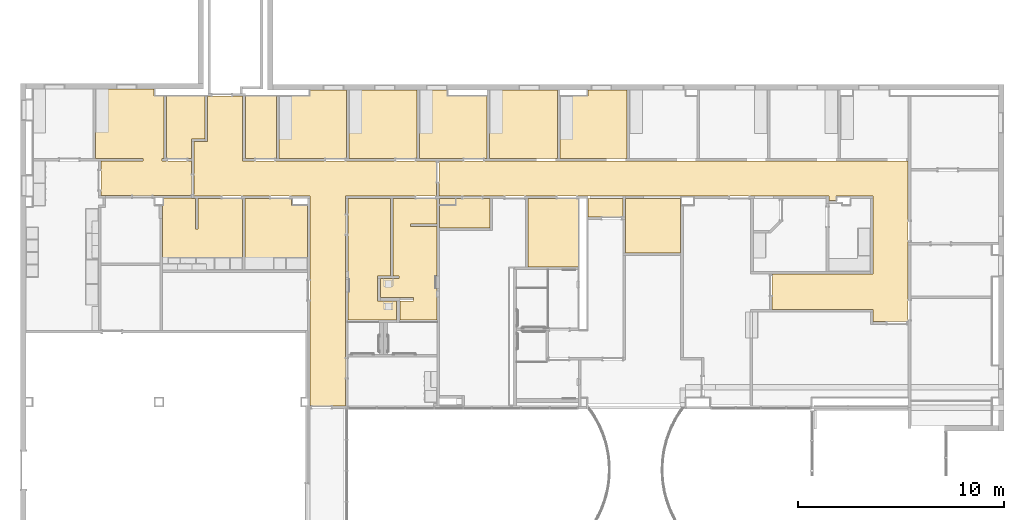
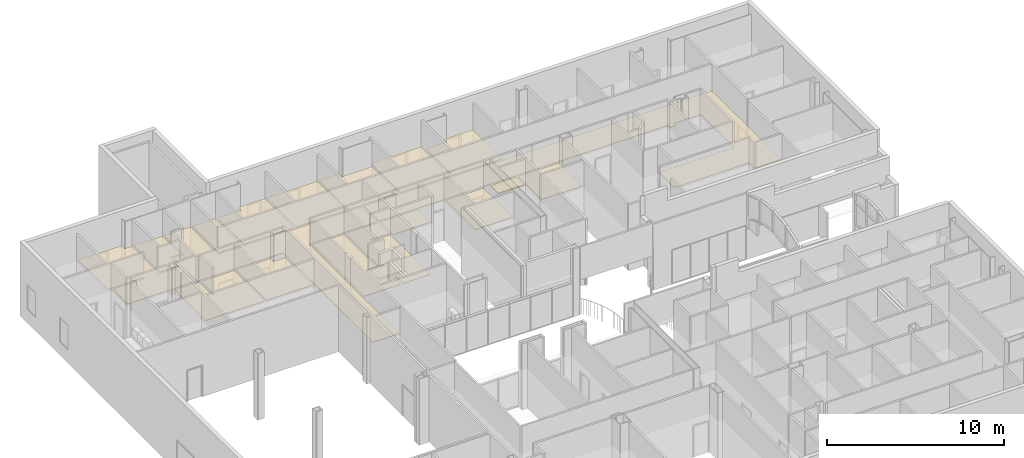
# One storey, part 30 of 47: 18 coverings.
"""IFC2X3 building model written with IfcOpenShell, lengths in metres."""

from ifc_helpers import new_model, entity, si_unit, converted_unit, frame, origin, place, context, project, spatial, face_set, surface_model, material, layer, layer_set, layer_usage, element, save


model = new_model("IFC2X3")

# Units and contexts
model_context = context("Model", 3, precision=1e-09, world=origin())
plan_context = context("Plan", 3, precision=1e-09, world=origin())
ifc_project = project(units=[si_unit("LENGTHUNIT", "METRE"), si_unit("AREAUNIT", "SQUARE_METRE"), si_unit("VOLUMEUNIT", "CUBIC_METRE"), converted_unit("PLANEANGLEUNIT", "DEGREE", entity("IfcRatioMeasure", 0.01745329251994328), si_unit("PLANEANGLEUNIT", "RADIAN"), dimensions=[0, 0, 0, 0, 0, 0, 0]), si_unit("TIMEUNIT", "SECOND")], contexts=[model_context, plan_context])

# Site, building, storey
site_placement = place(None, origin())
site = spatial("IfcSite", under=ifc_project, at=site_placement, Name="Default", CompositionType="ELEMENT")
building_placement = place(site_placement, origin())
building = spatial("IfcBuilding", under=site, at=building_placement, CompositionType="ELEMENT")
storey_placement = place(building_placement, frame((0.0, 0.0, 4.570000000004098)))
storey = spatial("IfcBuildingStorey", under=building, at=storey_placement, Name="Second Floor", CompositionType="ELEMENT", Elevation=4.570000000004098)

# Coverings
ifc_material_1 = material(Name="Default")
ifc_layer_1 = layer(ifc_material_1, 0.03599999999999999)
ifc_material_2 = material(Name="Ceiling Tile 600 x 600")
ifc_layer_2 = layer(ifc_material_2, 0.016)
ifc_layer_set = layer_set([ifc_layer_1, ifc_layer_2], Name="Compound Ceiling:ACT 600 x 600mm Grid")
ifc_layer_usage_1 = layer_usage(ifc_layer_set, "AXIS3", "NEGATIVE", 0.0)
covering_1_placement = place(storey_placement, origin())
element("IfcCovering", 1, at=covering_1_placement, inside=storey, material=ifc_layer_usage_1, Name="Compound Ceiling:ACT 600 x 600mm Grid", ObjectType="Compound Ceiling:ACT 600 x 600mm Grid", PredefinedType="CEILING", context=model_context, shape_type="SurfaceModel", body=[
    surface_model("IfcFaceBasedSurfaceModel", [(-43.73000000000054, 46.87843871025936, 2.732000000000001), (-41.42500000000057, 46.87843871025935, 2.732000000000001), (-41.42500000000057, 46.75443871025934, 2.732000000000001), (-43.47600000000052, 46.75443871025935, 2.732000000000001), (-43.47600000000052, 45.07843871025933, 2.732000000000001), (-43.30800000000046, 45.07843871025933, 2.732000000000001), (-39.0840000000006, 45.07843871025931, 2.732000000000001), (-39.08400000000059, 46.75443871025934, 2.732000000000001), (-40.51000000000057, 46.75443871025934, 2.732000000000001), (-40.51000000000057, 46.87843871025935, 2.732000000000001), (-40.41000000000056, 46.87843871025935, 2.732000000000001), (-40.41000000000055, 49.89443871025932, 2.732000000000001), (-40.89000000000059, 49.89443871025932, 2.732000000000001), (-40.89000000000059, 50.2374387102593, 2.732000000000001), (-43.73000000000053, 50.23743871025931, 2.732000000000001), (-43.73000000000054, 46.87843871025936, 2.680000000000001), (-43.73000000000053, 50.23743871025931, 2.680000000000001), (-40.89000000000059, 50.2374387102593, 2.680000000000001), (-40.89000000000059, 49.89443871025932, 2.680000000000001), (-40.41000000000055, 49.89443871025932, 2.680000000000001), (-40.41000000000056, 46.87843871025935, 2.680000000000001), (-40.51000000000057, 46.87843871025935, 2.680000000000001), (-40.51000000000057, 46.75443871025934, 2.680000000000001), (-39.08400000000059, 46.75443871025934, 2.680000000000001), (-39.0840000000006, 45.07843871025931, 2.680000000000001), (-43.30800000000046, 45.07843871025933, 2.680000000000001), (-43.47600000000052, 45.07843871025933, 2.680000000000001), (-43.47600000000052, 46.75443871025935, 2.680000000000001), (-41.42500000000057, 46.75443871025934, 2.680000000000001), (-41.42500000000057, 46.87843871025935, 2.680000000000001)], [face_set([[[0, 1, 2, 3, 4, 5, 6, 7, 8, 9, 10, 11, 12, 13, 14]], [[15, 16, 17, 18, 19, 20, 21, 22, 23, 24, 25, 26, 27, 28, 29]], [[1, 0, 15, 29]], [[2, 28, 29, 1]], [[3, 27, 28, 2]], [[4, 26, 27, 3]], [[5, 4, 26, 25]], [[6, 5, 25, 24]], [[7, 6, 24, 23]], [[8, 22, 23, 7]], [[9, 8, 22, 21]], [[10, 9, 21, 20]], [[11, 10, 20, 19]], [[12, 18, 19, 11]], [[13, 12, 18, 17]], [[14, 16, 17, 13]], [[0, 15, 16, 14]]])]),
])
ifc_layer_usage_2 = layer_usage(ifc_layer_set, "AXIS3", "NEGATIVE", 0.0)
covering_2_placement = place(storey_placement, origin())
element("IfcCovering", 2, at=covering_2_placement, inside=storey, material=ifc_layer_usage_2, Name="Compound Ceiling:ACT 600 x 600mm Grid", ObjectType="Compound Ceiling:ACT 600 x 600mm Grid", PredefinedType="CEILING", context=model_context, shape_type="SurfaceModel", body=[
    surface_model("IfcFaceBasedSurfaceModel", [(-40.28600000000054, 49.89443871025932, 2.732000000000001), (-38.42400000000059, 49.89443871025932, 2.732000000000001), (-38.42400000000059, 47.82843871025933, 2.732000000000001), (-39.08400000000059, 47.82843871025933, 2.732000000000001), (-39.08400000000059, 46.87843871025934, 2.732000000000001), (-40.28600000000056, 46.87843871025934, 2.732000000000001), (-40.28600000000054, 49.89443871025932, 2.680000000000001), (-38.42400000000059, 49.89443871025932, 2.680000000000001), (-38.42400000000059, 47.82843871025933, 2.680000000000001), (-39.08400000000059, 47.82843871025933, 2.680000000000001), (-39.08400000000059, 46.87843871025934, 2.680000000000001), (-40.28600000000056, 46.87843871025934, 2.680000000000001)], [face_set([[[0, 1, 2, 3, 4, 5]], [[6, 7, 8, 9, 10, 11]], [[5, 11, 6, 0]], [[4, 5, 11, 10]], [[3, 4, 10, 9]], [[2, 3, 9, 8]], [[1, 2, 8, 7]], [[0, 6, 7, 1]]])]),
])
ifc_layer_usage_3 = layer_usage(ifc_layer_set, "AXIS3", "NEGATIVE", 0.0)
covering_3_placement = place(storey_placement, origin())
element("IfcCovering", 3, at=covering_3_placement, inside=storey, material=ifc_layer_usage_3, Name="Compound Ceiling:ACT 600 x 600mm Grid", ObjectType="Compound Ceiling:ACT 600 x 600mm Grid", PredefinedType="CEILING", context=model_context, shape_type="SurfaceModel", body=[
    surface_model("IfcFaceBasedSurfaceModel", [(-38.30000000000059, 47.70443871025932, 2.732000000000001), (-38.30000000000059, 49.89443871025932, 2.732000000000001), (-36.59000000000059, 49.89443871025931, 2.732000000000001), (-36.59000000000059, 46.75443871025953, 2.732000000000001), (-27.18400000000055, 46.75443871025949, 2.732000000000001), (-27.18400000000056, 45.04443871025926, 2.732000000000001), (-31.61000000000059, 45.04443871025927, 2.732000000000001), (-31.61000000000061, 34.85836288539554, 2.732000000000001), (-33.32000000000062, 34.85836288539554, 2.732000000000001), (-33.3200000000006, 45.04443871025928, 2.732000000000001), (-38.9600000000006, 45.0444387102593, 2.732000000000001), (-38.96000000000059, 47.70443871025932, 2.732000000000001), (-38.30000000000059, 47.70443871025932, 2.680000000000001), (-38.30000000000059, 49.89443871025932, 2.680000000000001), (-36.59000000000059, 49.89443871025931, 2.680000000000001), (-36.59000000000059, 46.75443871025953, 2.680000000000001), (-27.18400000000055, 46.75443871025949, 2.680000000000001), (-27.18400000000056, 45.04443871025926, 2.680000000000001), (-31.61000000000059, 45.04443871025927, 2.680000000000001), (-31.61000000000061, 34.85836288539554, 2.680000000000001), (-33.32000000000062, 34.85836288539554, 2.680000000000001), (-33.3200000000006, 45.04443871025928, 2.680000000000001), (-38.9600000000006, 45.0444387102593, 2.680000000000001), (-38.96000000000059, 47.70443871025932, 2.680000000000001)], [face_set([[[0, 1, 2, 3, 4, 5, 6, 7, 8, 9, 10, 11]], [[12, 13, 14, 15, 16, 17, 18, 19, 20, 21, 22, 23]], [[11, 23, 12, 0]], [[10, 22, 23, 11]], [[9, 10, 22, 21]], [[8, 20, 21, 9]], [[7, 8, 20, 19]], [[6, 7, 19, 18]], [[5, 6, 18, 17]], [[4, 5, 17, 16]], [[3, 15, 16, 4]], [[2, 3, 15, 14]], [[1, 13, 14, 2]], [[0, 12, 13, 1]]])]),
])
ifc_layer_usage_4 = layer_usage(ifc_layer_set, "AXIS3", "NEGATIVE", 0.0)
covering_4_placement = place(storey_placement, origin())
element("IfcCovering", 4, at=covering_4_placement, inside=storey, material=ifc_layer_usage_4, Name="Compound Ceiling:ACT 600 x 600mm Grid", ObjectType="Compound Ceiling:ACT 600 x 600mm Grid", PredefinedType="CEILING", context=model_context, shape_type="SurfaceModel", body=[
    surface_model("IfcFaceBasedSurfaceModel", [(-33.3200000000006, 50.20299999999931, 2.732000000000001), (-33.3200000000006, 49.89443871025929, 2.732000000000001), (-34.82600000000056, 49.89443871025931, 2.732000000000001), (-34.82600000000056, 46.87843871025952, 2.732000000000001), (-31.54000000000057, 46.87843871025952, 2.732000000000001), (-31.54000000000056, 50.20299999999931, 2.732000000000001), (-33.3200000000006, 50.20299999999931, 2.680000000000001), (-31.54000000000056, 50.20299999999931, 2.680000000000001), (-31.54000000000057, 46.87843871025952, 2.680000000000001), (-34.82600000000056, 46.87843871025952, 2.680000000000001), (-34.82600000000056, 49.89443871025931, 2.680000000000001), (-33.3200000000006, 49.89443871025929, 2.680000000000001)], [face_set([[[0, 1, 2, 3, 4, 5]], [[6, 7, 8, 9, 10, 11]], [[2, 10, 11, 1]], [[3, 9, 10, 2]], [[4, 3, 9, 8]], [[5, 4, 8, 7]], [[0, 6, 7, 5]], [[1, 11, 6, 0]]])]),
])
ifc_layer_usage_5 = layer_usage(ifc_layer_set, "AXIS3", "NEGATIVE", 0.0)
covering_5_placement = place(storey_placement, origin())
element("IfcCovering", 5, at=covering_5_placement, inside=storey, material=ifc_layer_usage_5, Name="Compound Ceiling:ACT 600 x 600mm Grid", ObjectType="Compound Ceiling:ACT 600 x 600mm Grid", PredefinedType="CEILING", context=model_context, shape_type="SurfaceModel", body=[
    surface_model("IfcFaceBasedSurfaceModel", [(-36.46600000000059, 49.89443871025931, 2.732000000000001), (-34.95000000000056, 49.89443871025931, 2.732000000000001), (-34.95000000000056, 46.87843871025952, 2.732000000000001), (-36.46600000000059, 46.87843871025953, 2.732000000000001), (-36.46600000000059, 49.89443871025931, 2.680000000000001), (-34.95000000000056, 49.89443871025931, 2.680000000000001), (-34.95000000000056, 46.87843871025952, 2.680000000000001), (-36.46600000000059, 46.87843871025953, 2.680000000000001)], [face_set([[[0, 1, 2, 3]], [[4, 5, 6, 7]], [[3, 7, 4, 0]], [[2, 3, 7, 6]], [[1, 2, 6, 5]], [[0, 4, 5, 1]]])]),
])
ifc_layer_usage_6 = layer_usage(ifc_layer_set, "AXIS3", "NEGATIVE", 0.0)
covering_6_placement = place(storey_placement, origin())
element("IfcCovering", 6, at=covering_6_placement, inside=storey, material=ifc_layer_usage_6, Name="Compound Ceiling:ACT 600 x 600mm Grid", ObjectType="Compound Ceiling:ACT 600 x 600mm Grid", PredefinedType="CEILING", context=model_context, shape_type="SurfaceModel", body=[
    surface_model("IfcFaceBasedSurfaceModel", [(-31.41600000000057, 50.20299999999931, 2.732000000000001), (-28.13000000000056, 50.20299999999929, 2.732000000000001), (-28.13000000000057, 46.8784387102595, 2.732000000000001), (-31.41600000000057, 46.87843871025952, 2.732000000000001), (-31.41600000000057, 50.20299999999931, 2.680000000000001), (-28.13000000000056, 50.20299999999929, 2.680000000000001), (-28.13000000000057, 46.8784387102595, 2.680000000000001), (-31.41600000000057, 46.87843871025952, 2.680000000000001)], [face_set([[[0, 1, 2, 3]], [[4, 5, 6, 7]], [[3, 7, 4, 0]], [[2, 3, 7, 6]], [[1, 2, 6, 5]], [[0, 4, 5, 1]]])]),
])
ifc_layer_usage_7 = layer_usage(ifc_layer_set, "AXIS3", "NEGATIVE", 0.0)
covering_7_placement = place(storey_placement, origin())
element("IfcCovering", 7, at=covering_7_placement, inside=storey, material=ifc_layer_usage_7, Name="Compound Ceiling:ACT 600 x 600mm Grid", ObjectType="Compound Ceiling:ACT 600 x 600mm Grid", PredefinedType="CEILING", context=model_context, shape_type="SurfaceModel", body=[
    surface_model("IfcFaceBasedSurfaceModel", [(-28.00600000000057, 50.20299999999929, 2.732000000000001), (-26.6700000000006, 50.20299999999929, 2.732000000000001), (-26.6700000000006, 49.89443871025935, 2.732000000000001), (-24.72000000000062, 49.89443871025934, 2.732000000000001), (-24.72000000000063, 46.87843871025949, 2.732000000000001), (-28.00600000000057, 46.8784387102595, 2.732000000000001), (-28.00600000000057, 50.20299999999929, 2.680000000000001), (-26.6700000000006, 50.20299999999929, 2.680000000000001), (-26.6700000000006, 49.89443871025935, 2.680000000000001), (-24.72000000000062, 49.89443871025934, 2.680000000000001), (-24.72000000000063, 46.87843871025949, 2.680000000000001), (-28.00600000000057, 46.8784387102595, 2.680000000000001)], [face_set([[[0, 1, 2, 3, 4, 5]], [[6, 7, 8, 9, 10, 11]], [[5, 11, 6, 0]], [[4, 5, 11, 10]], [[3, 4, 10, 9]], [[2, 8, 9, 3]], [[1, 2, 8, 7]], [[0, 6, 7, 1]]])]),
])
ifc_layer_usage_8 = layer_usage(ifc_layer_set, "AXIS3", "NEGATIVE", 0.0)
covering_8_placement = place(storey_placement, origin())
element("IfcCovering", 8, at=covering_8_placement, inside=storey, material=ifc_layer_usage_8, Name="Compound Ceiling:ACT 600 x 600mm Grid", ObjectType="Compound Ceiling:ACT 600 x 600mm Grid", PredefinedType="CEILING", context=model_context, shape_type="SurfaceModel", body=[
    surface_model("IfcFaceBasedSurfaceModel", [(-24.59600000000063, 50.20299999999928, 2.732000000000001), (-21.31000000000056, 50.20299999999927, 2.732000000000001), (-21.31000000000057, 46.87843871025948, 2.732000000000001), (-21.41160000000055, 46.87843871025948, 2.732000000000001), (-22.32660000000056, 46.87843871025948, 2.732000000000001), (-24.59600000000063, 46.87843871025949, 2.732000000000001), (-24.59600000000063, 50.20299999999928, 2.680000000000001), (-21.31000000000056, 50.20299999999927, 2.680000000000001), (-21.31000000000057, 46.87843871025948, 2.680000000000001), (-21.41160000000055, 46.87843871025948, 2.680000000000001), (-22.32660000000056, 46.87843871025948, 2.680000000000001), (-24.59600000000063, 46.87843871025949, 2.680000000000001)], [face_set([[[0, 1, 2, 3, 4, 5]], [[6, 7, 8, 9, 10, 11]], [[5, 11, 6, 0]], [[4, 5, 11, 10]], [[3, 4, 10, 9]], [[2, 3, 9, 8]], [[1, 2, 8, 7]], [[0, 6, 7, 1]]])]),
])
ifc_layer_usage_9 = layer_usage(ifc_layer_set, "AXIS3", "NEGATIVE", 0.0)
covering_9_placement = place(storey_placement, origin())
element("IfcCovering", 9, at=covering_9_placement, inside=storey, material=ifc_layer_usage_9, Name="Compound Ceiling:ACT 600 x 600mm Grid", ObjectType="Compound Ceiling:ACT 600 x 600mm Grid", PredefinedType="CEILING", context=model_context, shape_type="SurfaceModel", body=[
    surface_model("IfcFaceBasedSurfaceModel", [(-19.83000000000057, 50.20299999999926, 2.732000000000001), (-19.83000000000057, 49.89443871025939, 2.732000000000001), (-21.18600000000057, 49.8944387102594, 2.732000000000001), (-21.18600000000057, 46.87843871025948, 2.732000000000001), (-18.91660000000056, 46.87843871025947, 2.732000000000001), (-17.9340000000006, 46.87843871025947, 2.732000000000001), (-17.93400000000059, 50.20299999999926, 2.732000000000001), (-19.83000000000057, 50.20299999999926, 2.680000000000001), (-17.93400000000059, 50.20299999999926, 2.680000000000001), (-17.9340000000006, 46.87843871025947, 2.680000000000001), (-18.91660000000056, 46.87843871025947, 2.680000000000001), (-21.18600000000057, 46.87843871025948, 2.680000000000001), (-21.18600000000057, 49.8944387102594, 2.680000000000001), (-19.83000000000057, 49.89443871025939, 2.680000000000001)], [face_set([[[0, 1, 2, 3, 4, 5, 6]], [[7, 8, 9, 10, 11, 12, 13]], [[2, 12, 13, 1]], [[3, 11, 12, 2]], [[4, 3, 11, 10]], [[5, 4, 10, 9]], [[6, 5, 9, 8]], [[0, 7, 8, 6]], [[1, 13, 7, 0]]])]),
])
ifc_layer_usage_10 = layer_usage(ifc_layer_set, "AXIS3", "NEGATIVE", 0.0)
covering_10_placement = place(storey_placement, origin())
element("IfcCovering", 10, at=covering_10_placement, inside=storey, material=ifc_layer_usage_10, Name="Compound Ceiling:ACT 600 x 600mm Grid", ObjectType="Compound Ceiling:ACT 600 x 600mm Grid", PredefinedType="CEILING", context=model_context, shape_type="SurfaceModel", body=[
    surface_model("IfcFaceBasedSurfaceModel", [(-5.286600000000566, 46.75443871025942, 2.732000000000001), (-4.385984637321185, 46.75443871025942, 2.732000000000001), (-4.270000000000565, 46.75443871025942, 2.732000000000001), (-4.270000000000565, 46.32643871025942, 2.732000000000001), (-4.270000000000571, 42.7324387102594, 2.732000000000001), (-4.270000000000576, 38.94443871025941, 2.732000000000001), (-5.980000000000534, 38.94443871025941, 2.732000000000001), (-5.980000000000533, 39.54443871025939, 2.732000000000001), (-10.88100000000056, 39.54443871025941, 2.732000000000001), (-10.88100000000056, 41.25443871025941, 2.732000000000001), (-5.980000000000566, 41.25443871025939, 2.732000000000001), (-5.980000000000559, 45.04443871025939, 2.732000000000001), (-7.780000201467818, 45.04443871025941, 2.732000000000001), (-7.780000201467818, 44.81943885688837, 2.732000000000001), (-8.13000000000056, 44.81943885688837, 2.732000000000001), (-8.13000000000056, 45.04443871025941, 2.732000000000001), (-10.81500000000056, 45.04443871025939, 2.732000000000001), (-11.73000000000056, 45.04443871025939, 2.732000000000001), (-15.25800000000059, 45.04443871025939, 2.732000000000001), (-17.12500000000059, 45.04443871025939, 2.732000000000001), (-18.05800000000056, 45.04443871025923, 2.732000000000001), (-19.72840000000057, 45.04443871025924, 2.732000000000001), (-27.06000000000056, 45.04443871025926, 2.732000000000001), (-27.06000000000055, 46.75443871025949, 2.732000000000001), (-22.32660000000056, 46.75443871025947, 2.732000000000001), (-21.41160000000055, 46.75443871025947, 2.732000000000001), (-18.91660000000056, 46.75443871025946, 2.732000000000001), (-18.00160000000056, 46.75443871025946, 2.732000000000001), (-15.50660000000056, 46.75443871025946, 2.732000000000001), (-14.59160000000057, 46.75443871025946, 2.732000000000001), (-12.09660000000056, 46.75443871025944, 2.732000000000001), (-11.19598463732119, 46.75443871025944, 2.732000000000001), (-8.696600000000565, 46.75443871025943, 2.732000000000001), (-7.780000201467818, 46.75443871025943, 2.732000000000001), (-5.286600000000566, 46.75443871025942, 2.680000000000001), (-4.385984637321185, 46.75443871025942, 2.680000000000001), (-4.270000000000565, 46.75443871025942, 2.680000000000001), (-4.270000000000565, 46.32643871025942, 2.680000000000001), (-4.270000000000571, 42.7324387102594, 2.680000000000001), (-4.270000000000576, 38.94443871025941, 2.680000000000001), (-5.980000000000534, 38.94443871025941, 2.680000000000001), (-5.980000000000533, 39.54443871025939, 2.680000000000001), (-10.88100000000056, 39.54443871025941, 2.680000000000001), (-10.88100000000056, 41.25443871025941, 2.680000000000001), (-5.980000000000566, 41.25443871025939, 2.680000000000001), (-5.980000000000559, 45.04443871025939, 2.680000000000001), (-7.780000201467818, 45.04443871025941, 2.680000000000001), (-7.780000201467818, 44.81943885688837, 2.680000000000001), (-8.13000000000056, 44.81943885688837, 2.680000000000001), (-8.13000000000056, 45.04443871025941, 2.680000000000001), (-10.81500000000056, 45.04443871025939, 2.680000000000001), (-11.73000000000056, 45.04443871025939, 2.680000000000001), (-15.25800000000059, 45.04443871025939, 2.680000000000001), (-17.12500000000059, 45.04443871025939, 2.680000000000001), (-18.05800000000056, 45.04443871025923, 2.680000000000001), (-19.72840000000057, 45.04443871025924, 2.680000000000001), (-27.06000000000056, 45.04443871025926, 2.680000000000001), (-27.06000000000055, 46.75443871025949, 2.680000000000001), (-22.32660000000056, 46.75443871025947, 2.680000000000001), (-21.41160000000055, 46.75443871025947, 2.680000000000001), (-18.91660000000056, 46.75443871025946, 2.680000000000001), (-18.00160000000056, 46.75443871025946, 2.680000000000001), (-15.50660000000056, 46.75443871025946, 2.680000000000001), (-14.59160000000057, 46.75443871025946, 2.680000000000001), (-12.09660000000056, 46.75443871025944, 2.680000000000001), (-11.19598463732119, 46.75443871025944, 2.680000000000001), (-8.696600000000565, 46.75443871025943, 2.680000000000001), (-7.780000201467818, 46.75443871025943, 2.680000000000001)], [face_set([[[0, 1, 2, 3, 4, 5, 6, 7, 8, 9, 10, 11, 12, 13, 14, 15, 16, 17, 18, 19, 20, 21, 22, 23, 24, 25, 26, 27, 28, 29, 30, 31, 32, 33]], [[34, 35, 36, 37, 38, 39, 40, 41, 42, 43, 44, 45, 46, 47, 48, 49, 50, 51, 52, 53, 54, 55, 56, 57, 58, 59, 60, 61, 62, 63, 64, 65, 66, 67]], [[33, 67, 34, 0]], [[32, 66, 67, 33]], [[31, 65, 66, 32]], [[30, 64, 65, 31]], [[29, 63, 64, 30]], [[28, 62, 63, 29]], [[27, 61, 62, 28]], [[26, 60, 61, 27]], [[25, 59, 60, 26]], [[24, 58, 59, 25]], [[23, 57, 58, 24]], [[22, 56, 57, 23]], [[21, 22, 56, 55]], [[20, 21, 55, 54]], [[19, 20, 54, 53]], [[18, 19, 53, 52]], [[17, 18, 52, 51]], [[16, 17, 51, 50]], [[15, 16, 50, 49]], [[14, 48, 49, 15]], [[13, 14, 48, 47]], [[12, 13, 47, 46]], [[11, 12, 46, 45]], [[10, 44, 45, 11]], [[9, 43, 44, 10]], [[8, 42, 43, 9]], [[7, 8, 42, 41]], [[6, 40, 41, 7]], [[5, 6, 40, 39]], [[4, 5, 39, 38]], [[3, 4, 38, 37]], [[2, 3, 37, 36]], [[1, 35, 36, 2]], [[0, 34, 35, 1]]])]),
])
ifc_layer_usage_11 = layer_usage(ifc_layer_set, "AXIS3", "NEGATIVE", 0.0)
covering_11_placement = place(storey_placement, origin())
element("IfcCovering", 11, at=covering_11_placement, inside=storey, material=ifc_layer_usage_11, Name="Compound Ceiling:ACT 600 x 600mm Grid", ObjectType="Compound Ceiling:ACT 600 x 600mm Grid", PredefinedType="CEILING", context=model_context, shape_type="SurfaceModel", body=[
    surface_model("IfcFaceBasedSurfaceModel", [(-18.12000000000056, 44.03943871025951, 2.732000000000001), (-19.83000000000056, 44.03943871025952, 2.732000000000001), (-19.83000000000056, 44.92043871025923, 2.732000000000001), (-19.72840000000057, 44.92043871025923, 2.732000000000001), (-18.12000000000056, 44.92043871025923, 2.732000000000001), (-18.12000000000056, 44.03943871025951, 2.680000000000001), (-19.83000000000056, 44.03943871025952, 2.680000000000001), (-19.83000000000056, 44.92043871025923, 2.680000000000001), (-19.72840000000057, 44.92043871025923, 2.680000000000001), (-18.12000000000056, 44.92043871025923, 2.680000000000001)], [face_set([[[0, 1, 2, 3, 4]], [[5, 6, 7, 8, 9]], [[4, 0, 5, 9]], [[3, 8, 9, 4]], [[2, 7, 8, 3]], [[1, 6, 7, 2]], [[0, 1, 6, 5]]])]),
])
ifc_layer_usage_12 = layer_usage(ifc_layer_set, "AXIS3", "NEGATIVE", 0.0)
covering_12_placement = place(storey_placement, origin())
element("IfcCovering", 12, at=covering_12_placement, inside=storey, material=ifc_layer_usage_12, Name="Compound Ceiling:ACT 600 x 600mm Grid", ObjectType="Compound Ceiling:ACT 600 x 600mm Grid", PredefinedType="CEILING", context=model_context, shape_type="SurfaceModel", body=[
    surface_model("IfcFaceBasedSurfaceModel", [(-22.73000000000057, 41.5944387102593, 2.732000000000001), (-22.73000000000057, 44.92043871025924, 2.732000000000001), (-20.29000000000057, 44.92043871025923, 2.732000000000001), (-20.29000000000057, 41.59443871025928, 2.732000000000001), (-22.73000000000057, 41.5944387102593, 2.680000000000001), (-22.73000000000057, 44.92043871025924, 2.680000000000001), (-20.29000000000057, 44.92043871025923, 2.680000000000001), (-20.29000000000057, 41.59443871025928, 2.680000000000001)], [face_set([[[0, 1, 2, 3]], [[4, 5, 6, 7]], [[3, 0, 4, 7]], [[2, 3, 7, 6]], [[1, 5, 6, 2]], [[0, 4, 5, 1]]])]),
])
ifc_layer_usage_13 = layer_usage(ifc_layer_set, "AXIS3", "NEGATIVE", 0.0)
covering_13_placement = place(storey_placement, origin())
element("IfcCovering", 13, at=covering_13_placement, inside=storey, material=ifc_layer_usage_13, Name="Compound Ceiling:ACT 600 x 600mm Grid", ObjectType="Compound Ceiling:ACT 600 x 600mm Grid", PredefinedType="CEILING", context=model_context, shape_type="SurfaceModel", body=[
    surface_model("IfcFaceBasedSurfaceModel", [(-27.02600000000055, 44.92043871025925, 2.732000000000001), (-24.57400000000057, 44.92043871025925, 2.732000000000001), (-24.57400000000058, 43.4884387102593, 2.732000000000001), (-27.02600000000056, 43.48843871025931, 2.732000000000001), (-27.02600000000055, 44.92043871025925, 2.680000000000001), (-24.57400000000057, 44.92043871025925, 2.680000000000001), (-24.57400000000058, 43.4884387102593, 2.680000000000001), (-27.02600000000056, 43.48843871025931, 2.680000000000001)], [face_set([[[0, 1, 2, 3]], [[4, 5, 6, 7]], [[3, 7, 4, 0]], [[2, 3, 7, 6]], [[1, 2, 6, 5]], [[0, 4, 5, 1]]])]),
])
ifc_layer_usage_14 = layer_usage(ifc_layer_set, "AXIS3", "NEGATIVE", 0.0)
covering_14_placement = place(storey_placement, origin())
element("IfcCovering", 14, at=covering_14_placement, inside=storey, material=ifc_layer_usage_14, Name="Compound Ceiling:ACT 600 x 600mm Grid", ObjectType="Compound Ceiling:ACT 600 x 600mm Grid", PredefinedType="CEILING", context=model_context, shape_type="SurfaceModel", body=[
    surface_model("IfcFaceBasedSurfaceModel", [(-29.29000000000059, 41.17054685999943, 2.732000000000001), (-28.99560000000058, 41.17054685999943, 2.732000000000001), (-28.99560000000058, 41.04654685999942, 2.732000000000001), (-29.91000000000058, 41.04654685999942, 2.732000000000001), (-29.91000000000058, 40.13154685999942, 2.732000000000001), (-28.30000000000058, 40.13154685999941, 2.732000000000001), (-28.30000000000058, 39.94754685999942, 2.732000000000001), (-28.94000000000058, 39.94754685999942, 2.732000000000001), (-28.94000000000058, 39.03376656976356, 2.732000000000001), (-27.15000000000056, 39.03376656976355, 2.732000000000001), (-27.15000000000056, 43.57043871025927, 2.732000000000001), (-28.44000000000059, 43.57043871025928, 2.732000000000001), (-28.44000000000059, 43.69443871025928, 2.732000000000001), (-27.15000000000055, 43.69443871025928, 2.732000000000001), (-27.15000000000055, 44.92043871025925, 2.732000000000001), (-29.29000000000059, 44.92043871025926, 2.732000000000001), (-29.29000000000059, 41.17054685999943, 2.680000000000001), (-29.29000000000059, 44.92043871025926, 2.680000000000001), (-27.15000000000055, 44.92043871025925, 2.680000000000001), (-27.15000000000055, 43.69443871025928, 2.680000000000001), (-28.44000000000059, 43.69443871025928, 2.680000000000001), (-28.44000000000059, 43.57043871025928, 2.680000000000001), (-27.15000000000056, 43.57043871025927, 2.680000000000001), (-27.15000000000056, 39.03376656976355, 2.680000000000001), (-28.94000000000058, 39.03376656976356, 2.680000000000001), (-28.94000000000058, 39.94754685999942, 2.680000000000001), (-28.30000000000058, 39.94754685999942, 2.680000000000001), (-28.30000000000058, 40.13154685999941, 2.680000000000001), (-29.91000000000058, 40.13154685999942, 2.680000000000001), (-29.91000000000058, 41.04654685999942, 2.680000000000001), (-28.99560000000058, 41.04654685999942, 2.680000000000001), (-28.99560000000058, 41.17054685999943, 2.680000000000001)], [face_set([[[0, 1, 2, 3, 4, 5, 6, 7, 8, 9, 10, 11, 12, 13, 14, 15]], [[16, 17, 18, 19, 20, 21, 22, 23, 24, 25, 26, 27, 28, 29, 30, 31]], [[1, 0, 16, 31]], [[2, 30, 31, 1]], [[3, 29, 30, 2]], [[4, 28, 29, 3]], [[5, 4, 28, 27]], [[6, 26, 27, 5]], [[7, 25, 26, 6]], [[8, 24, 25, 7]], [[9, 8, 24, 23]], [[10, 9, 23, 22]], [[11, 21, 22, 10]], [[12, 11, 21, 20]], [[13, 12, 20, 19]], [[14, 13, 19, 18]], [[15, 17, 18, 14]], [[0, 16, 17, 15]]])]),
])
ifc_layer_usage_15 = layer_usage(ifc_layer_set, "AXIS3", "NEGATIVE", 0.0)
covering_15_placement = place(storey_placement, origin())
element("IfcCovering", 15, at=covering_15_placement, inside=storey, material=ifc_layer_usage_15, Name="Compound Ceiling:ACT 600 x 600mm Grid", ObjectType="Compound Ceiling:ACT 600 x 600mm Grid", PredefinedType="CEILING", context=model_context, shape_type="SurfaceModel", body=[
    surface_model("IfcFaceBasedSurfaceModel", [(-31.4860000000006, 44.92043871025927, 2.732000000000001), (-29.41400000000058, 44.92043871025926, 2.732000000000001), (-29.41400000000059, 41.17054685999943, 2.732000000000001), (-30.03400000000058, 41.17054685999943, 2.732000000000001), (-30.03400000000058, 39.94754685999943, 2.732000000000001), (-29.12400000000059, 39.94754685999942, 2.732000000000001), (-29.12400000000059, 39.03376656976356, 2.732000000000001), (-31.48600000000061, 39.03376656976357, 2.732000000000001), (-31.4860000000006, 44.92043871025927, 2.680000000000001), (-29.41400000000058, 44.92043871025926, 2.680000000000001), (-29.41400000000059, 41.17054685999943, 2.680000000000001), (-30.03400000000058, 41.17054685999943, 2.680000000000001), (-30.03400000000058, 39.94754685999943, 2.680000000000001), (-29.12400000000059, 39.94754685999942, 2.680000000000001), (-29.12400000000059, 39.03376656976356, 2.680000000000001), (-31.48600000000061, 39.03376656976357, 2.680000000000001)], [face_set([[[0, 1, 2, 3, 4, 5, 6, 7]], [[8, 9, 10, 11, 12, 13, 14, 15]], [[7, 15, 8, 0]], [[6, 7, 15, 14]], [[5, 6, 14, 13]], [[4, 12, 13, 5]], [[3, 4, 12, 11]], [[2, 3, 11, 10]], [[1, 2, 10, 9]], [[0, 8, 9, 1]]])]),
])
ifc_layer_usage_16 = layer_usage(ifc_layer_set, "AXIS3", "NEGATIVE", 0.0)
covering_16_placement = place(storey_placement, origin())
element("IfcCovering", 16, at=covering_16_placement, inside=storey, material=ifc_layer_usage_16, Name="Compound Ceiling:ACT 600 x 600mm Grid", ObjectType="Compound Ceiling:ACT 600 x 600mm Grid", PredefinedType="CEILING", context=model_context, shape_type="SurfaceModel", body=[
    surface_model("IfcFaceBasedSurfaceModel", [(-36.4800000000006, 41.45843871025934, 2.732000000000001), (-36.48000000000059, 44.92043871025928, 2.732000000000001), (-34.22000000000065, 44.92043871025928, 2.732000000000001), (-34.22000000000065, 44.5844387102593, 2.732000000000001), (-33.4440000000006, 44.5844387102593, 2.732000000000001), (-33.4440000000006, 41.45843871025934, 2.732000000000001), (-36.4800000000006, 41.45843871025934, 2.680000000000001), (-36.48000000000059, 44.92043871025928, 2.680000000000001), (-34.22000000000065, 44.92043871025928, 2.680000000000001), (-34.22000000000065, 44.5844387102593, 2.680000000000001), (-33.4440000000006, 44.5844387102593, 2.680000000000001), (-33.4440000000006, 41.45843871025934, 2.680000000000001)], [face_set([[[0, 1, 2, 3, 4, 5]], [[6, 7, 8, 9, 10, 11]], [[5, 0, 6, 11]], [[4, 5, 11, 10]], [[3, 9, 10, 4]], [[2, 3, 9, 8]], [[1, 7, 8, 2]], [[0, 6, 7, 1]]])]),
])
ifc_layer_usage_17 = layer_usage(ifc_layer_set, "AXIS3", "NEGATIVE", 0.0)
covering_17_placement = place(storey_placement, origin())
element("IfcCovering", 17, at=covering_17_placement, inside=storey, material=ifc_layer_usage_17, Name="Compound Ceiling:ACT 600 x 600mm Grid", ObjectType="Compound Ceiling:ACT 600 x 600mm Grid", PredefinedType="CEILING", context=model_context, shape_type="SurfaceModel", body=[
    surface_model("IfcFaceBasedSurfaceModel", [(-39.08400000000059, 44.95443871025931, 2.732000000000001), (-39.08400000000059, 44.92043871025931, 2.732000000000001), (-38.88400000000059, 44.92043871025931, 2.732000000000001), (-38.8840000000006, 43.4544387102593, 2.732000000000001), (-38.7600000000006, 43.4544387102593, 2.732000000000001), (-38.76000000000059, 44.92043871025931, 2.732000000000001), (-36.6040000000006, 44.92043871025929, 2.732000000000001), (-36.6040000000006, 41.45843871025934, 2.732000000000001), (-40.47600000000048, 41.45843871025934, 2.732000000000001), (-40.47600000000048, 44.5844387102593, 2.732000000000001), (-40.4300000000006, 44.5844387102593, 2.732000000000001), (-40.4300000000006, 44.95443871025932, 2.732000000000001), (-39.08400000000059, 44.95443871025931, 2.680000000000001), (-40.4300000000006, 44.95443871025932, 2.680000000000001), (-40.4300000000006, 44.5844387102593, 2.680000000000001), (-40.47600000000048, 44.5844387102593, 2.680000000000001), (-40.47600000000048, 41.45843871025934, 2.680000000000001), (-36.6040000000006, 41.45843871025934, 2.680000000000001), (-36.6040000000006, 44.92043871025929, 2.680000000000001), (-38.76000000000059, 44.92043871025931, 2.680000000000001), (-38.7600000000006, 43.4544387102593, 2.680000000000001), (-38.8840000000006, 43.4544387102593, 2.680000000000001), (-38.88400000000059, 44.92043871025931, 2.680000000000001), (-39.08400000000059, 44.92043871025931, 2.680000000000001)], [face_set([[[0, 1, 2, 3, 4, 5, 6, 7, 8, 9, 10, 11]], [[12, 13, 14, 15, 16, 17, 18, 19, 20, 21, 22, 23]], [[11, 13, 12, 0]], [[10, 14, 13, 11]], [[9, 15, 14, 10]], [[8, 16, 15, 9]], [[7, 8, 16, 17]], [[6, 7, 17, 18]], [[5, 19, 18, 6]], [[4, 20, 19, 5]], [[3, 21, 20, 4]], [[2, 3, 21, 22]], [[1, 23, 22, 2]], [[0, 1, 23, 12]]])]),
])
ifc_layer_usage_18 = layer_usage(ifc_layer_set, "AXIS3", "NEGATIVE", 0.0)
covering_18_placement = place(storey_placement, origin())
element("IfcCovering", 18, at=covering_18_placement, inside=storey, material=ifc_layer_usage_18, Name="Compound Ceiling:ACT 600 x 600mm Grid", ObjectType="Compound Ceiling:ACT 600 x 600mm Grid", PredefinedType="CEILING", context=model_context, shape_type="SurfaceModel", body=[
    surface_model("IfcFaceBasedSurfaceModel", [(-15.32000000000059, 44.92043871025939, 2.732000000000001), (-15.3200000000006, 42.28000069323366, 2.732000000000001), (-18.00500000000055, 42.28000069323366, 2.732000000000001), (-18.00500000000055, 44.9204387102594, 2.732000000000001), (-15.32000000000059, 44.92043871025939, 2.680000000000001), (-15.3200000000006, 42.28000069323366, 2.680000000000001), (-18.00500000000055, 42.28000069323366, 2.680000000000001), (-18.00500000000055, 44.9204387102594, 2.680000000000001)], [face_set([[[0, 1, 2, 3]], [[4, 5, 6, 7]], [[3, 7, 4, 0]], [[2, 6, 7, 3]], [[1, 2, 6, 5]], [[0, 1, 5, 4]]])]),
])

save(model, "model.ifc")
